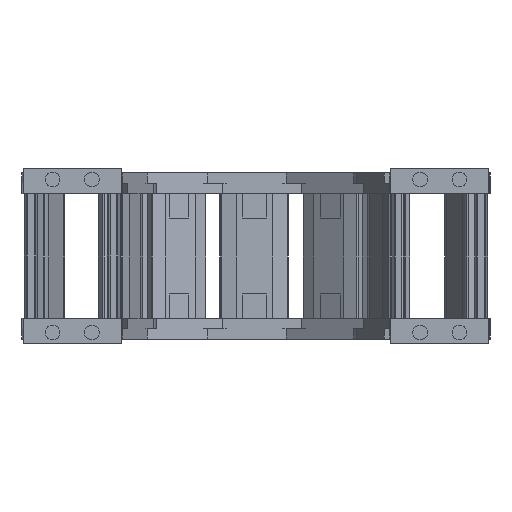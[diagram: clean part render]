
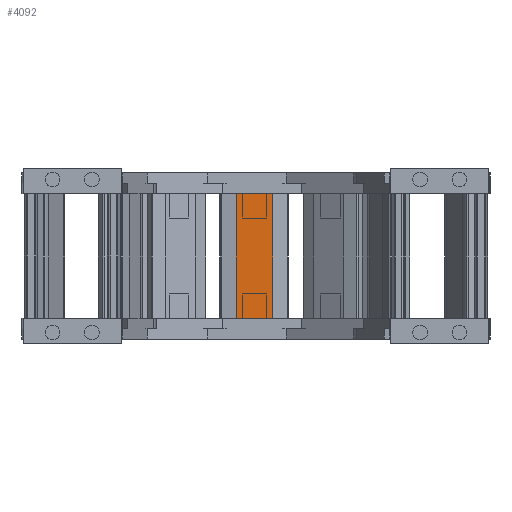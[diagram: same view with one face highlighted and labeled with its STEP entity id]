
A CAD part, left-side view. The second image highlights one B-rep face of the part: STEP entity #4092.
In plain terms, the highlighted planar face has unit normal (-1, -0.013, 0) as drawn and (0, -1, 0) by its records, which use the part's own axes.
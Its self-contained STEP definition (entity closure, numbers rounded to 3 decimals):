
#3646=DIRECTION('',(0.,0.,-1.));
#3647=VECTOR('',#3646,15.);
#3648=CARTESIAN_POINT('',(-13.5,0.,7.5));
#3649=LINE('',#3648,#3647);
#3733=DIRECTION('',(-1.,0.,0.));
#3734=VECTOR('',#3733,51.);
#3735=CARTESIAN_POINT('',(37.5,0.,-7.5));
#3736=LINE('',#3735,#3734);
#3740=DIRECTION('',(1.,0.,0.));
#3741=VECTOR('',#3740,51.);
#3742=CARTESIAN_POINT('',(-13.5,0.,7.5));
#3743=LINE('',#3742,#3741);
#3747=DIRECTION('',(0.,0.,-1.));
#3748=VECTOR('',#3747,15.);
#3749=CARTESIAN_POINT('',(37.5,0.,7.5));
#3750=LINE('',#3749,#3748);
#3865=CARTESIAN_POINT('',(37.5,0.,7.5));
#3866=CARTESIAN_POINT('',(37.5,0.,-7.5));
#3867=VERTEX_POINT('',#3865);
#3868=VERTEX_POINT('',#3866);
#3889=CARTESIAN_POINT('',(-13.5,0.,-7.5));
#3890=VERTEX_POINT('',#3889);
#3891=CARTESIAN_POINT('',(-13.5,0.,7.5));
#3892=VERTEX_POINT('',#3891);
#4079=CARTESIAN_POINT('',(6.,0.,0.));
#4080=DIRECTION('',(0.,1.,0.));
#4081=DIRECTION('',(1.,0.,0.));
#4082=AXIS2_PLACEMENT_3D('',#4079,#4080,#4081);
#4083=PLANE('',#4082);
#4084=ORIENTED_EDGE('',*,*,#4065,.T.);
#4085=ORIENTED_EDGE('',*,*,#3930,.F.);
#4087=ORIENTED_EDGE('',*,*,#4086,.T.);
#4089=ORIENTED_EDGE('',*,*,#4088,.T.);
#4090=EDGE_LOOP('',(#4084,#4085,#4087,#4089));
#4091=FACE_OUTER_BOUND('',#4090,.F.);
#4092=ADVANCED_FACE('',(#4091),#4083,.F.);
#3930=EDGE_CURVE('',#3892,#3890,#3649,.T.);
#4065=EDGE_CURVE('',#3868,#3890,#3736,.T.);
#4086=EDGE_CURVE('',#3892,#3867,#3743,.T.);
#4088=EDGE_CURVE('',#3867,#3868,#3750,.T.);
